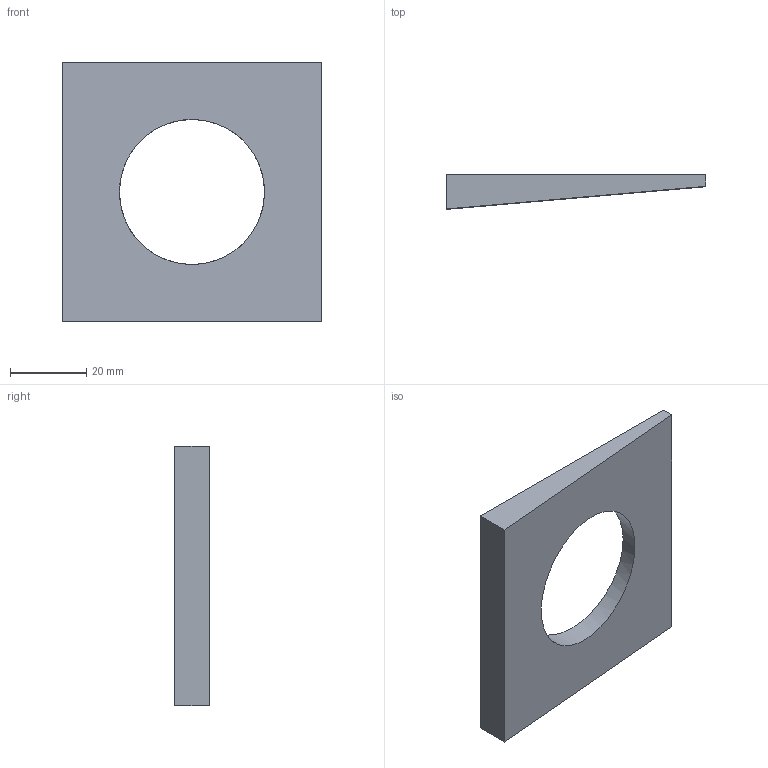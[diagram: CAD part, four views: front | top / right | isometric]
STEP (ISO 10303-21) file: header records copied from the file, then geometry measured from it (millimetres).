
FILE_DESCRIPTION(/* description */ (''),/* implementation_level */ '2;1');
FILE_NAME(/* name */ 'C:\Users\D\Documents\Inventor\HP\JIS\締結部品\座金\テーパ座金5°\tw5-m36.stp',/* time_stamp */ '2024-09-27T15:45:11+09:00',/* author */ ('D'),/* organization */ (''),/* preprocessor_version */ 'ST-DEVELOPER v18',/* originating_system */ 'Autodesk Inventor 2020',/* authorisation */ '');
FILE_SCHEMA (('AUTOMOTIVE_DESIGN { 1 0 10303 214 3 1 1 }'));
Length unit declared in the file: millimetre
Products named in the file (1): tw5-m5
Bounding box: 68 x 9 x 68 mm (x, y, z)
Volume: 21067.4 mm3; surface area: 9355.7 mm2
Topology: 1 solids, 1 shells, 7 faces, 16 edges, 11 vertices
Faces by surface type: plane 6, cylinder 1
Full cylindrical faces by diameter (mm): 38 x1
Entity records: 246 total; most frequent: DIRECTION 35, CARTESIAN_POINT 35, ORIENTED_EDGE 32, EDGE_CURVE 16, LINE 13, VECTOR 13, VERTEX_POINT 11, AXIS2_PLACEMENT_3D 11
